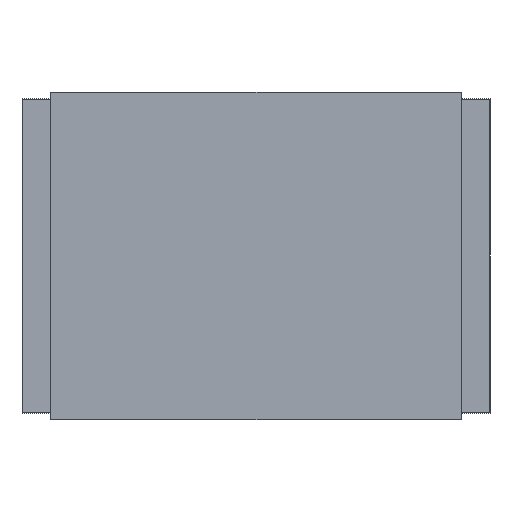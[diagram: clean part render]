
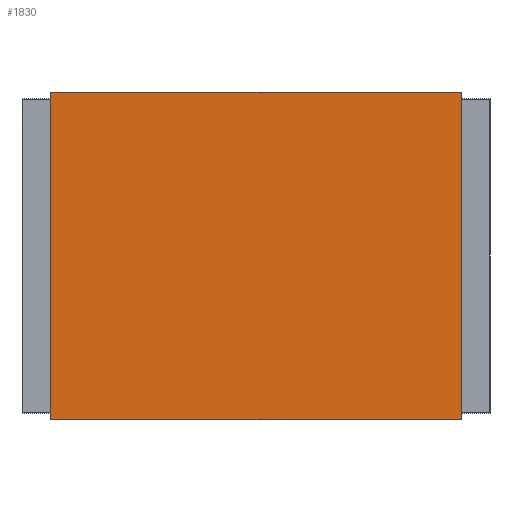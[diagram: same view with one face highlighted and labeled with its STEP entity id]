
A CAD part, left-side view. The second image highlights one B-rep face of the part: STEP entity #1830.
In plain terms, the highlighted planar face has unit normal (-1, 0, 0).
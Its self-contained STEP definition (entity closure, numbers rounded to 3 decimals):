
#1745=CARTESIAN_POINT('',(-1.651,-0.749,1.194));
#1744=VERTEX_POINT('',#1745);
#1763=CARTESIAN_POINT('',(-1.651,0.749,1.194));
#1762=VERTEX_POINT('',#1763);
#1771=EDGE_CURVE('',#1744,#1762,#1776,.T.);
#1776=LINE('',#1745,#1778);
#1778=VECTOR('',#1779,1.499);
#1779=DIRECTION('',(0.0,1.0,0.0));
#1830=ADVANCED_FACE('',(#1836),#1831,.T.);
#1831=PLANE('',#1832);
#1832=AXIS2_PLACEMENT_3D('',#1833,#1834,#1835);
#1833=CARTESIAN_POINT('',(-1.651,0.749,0.0));
#1834=DIRECTION('',(-1.0,0.0,0.0));
#1835=DIRECTION('',(0.,0.,1.));
#1836=FACE_OUTER_BOUND('',#1837,.T.);
#1837=EDGE_LOOP('',(#1838,#1848,#1858,#1868));
#1841=CARTESIAN_POINT('',(-1.651,-0.749,0.0));
#1840=VERTEX_POINT('',#1841);
#1843=CARTESIAN_POINT('',(-1.651,0.749,0.0));
#1842=VERTEX_POINT('',#1843);
#1839=EDGE_CURVE('',#1840,#1842,#1844,.T.);
#1844=LINE('',#1841,#1846);
#1846=VECTOR('',#1847,1.499);
#1847=DIRECTION('',(0.0,1.0,0.0));
#1838=ORIENTED_EDGE('',*,*,#1839,.F.);
#1849=EDGE_CURVE('',#1744,#1840,#1854,.T.);
#1854=LINE('',#1745,#1856);
#1856=VECTOR('',#1857,1.194);
#1857=DIRECTION('',(0.0,0.0,-1.0));
#1848=ORIENTED_EDGE('',*,*,#1849,.F.);
#1858=ORIENTED_EDGE('',*,*,#1771,.T.);
#1869=EDGE_CURVE('',#1842,#1762,#1874,.T.);
#1874=LINE('',#1843,#1876);
#1876=VECTOR('',#1877,1.194);
#1877=DIRECTION('',(0.0,0.0,1.0));
#1868=ORIENTED_EDGE('',*,*,#1869,.F.);
